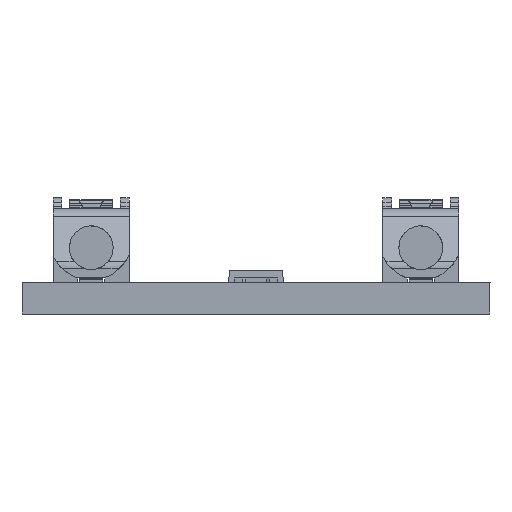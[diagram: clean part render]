
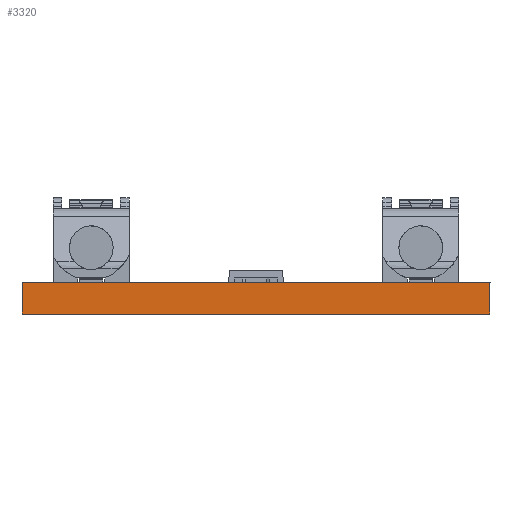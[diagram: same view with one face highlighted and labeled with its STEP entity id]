
A CAD part, left-side view. The second image highlights one B-rep face of the part: STEP entity #3320.
In plain terms, the highlighted planar face has unit normal (-1, 0, 0).
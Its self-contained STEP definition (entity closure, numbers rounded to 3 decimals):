
#10 = VERTEX_POINT ( 'NONE', #4194 ) ;
#26 = VERTEX_POINT ( 'NONE', #1637 ) ;
#445 = CARTESIAN_POINT ( 'NONE',  ( 0., 0., 1.6 ) ) ;
#523 = DIRECTION ( 'NONE',  ( 0., 0., -1. ) ) ;
#585 = VERTEX_POINT ( 'NONE', #2545 ) ;
#867 = VECTOR ( 'NONE', #1009, 1000. ) ;
#1009 = DIRECTION ( 'NONE',  ( 0., -1., 0. ) ) ;
#1097 = DIRECTION ( 'NONE',  ( 0., 0., -1. ) ) ;
#1125 = AXIS2_PLACEMENT_3D ( 'NONE', #8180, #4336, #523 ) ;
#1294 = ORIENTED_EDGE ( 'NONE', *, *, #6421, .F. ) ;
#1637 = CARTESIAN_POINT ( 'NONE',  ( 0., 24., 1.6 ) ) ;
#1734 = VECTOR ( 'NONE', #1097, 1000. ) ;
#1847 = DIRECTION ( 'NONE',  ( 0., 0., -1. ) ) ;
#1944 = ORIENTED_EDGE ( 'NONE', *, *, #7558, .T. ) ;
#2435 = EDGE_LOOP ( 'NONE', ( #1944, #4137, #1294, #3819 ) ) ;
#2545 = CARTESIAN_POINT ( 'NONE',  ( 0., 0., 1.6 ) ) ;
#2665 = EDGE_CURVE ( 'NONE', #26, #10, #3376, .T. ) ;
#2758 = CARTESIAN_POINT ( 'NONE',  ( 0., 0., 1.6 ) ) ;
#3320 = ADVANCED_FACE ( 'NONE', ( #8242 ), #3688, .F. ) ;
#3376 = LINE ( 'NONE', #6950, #4881 ) ;
#3389 = DIRECTION ( 'NONE',  ( 0., -1., 0. ) ) ;
#3505 = VECTOR ( 'NONE', #3389, 1000. ) ;
#3688 = PLANE ( 'NONE',  #1125 ) ;
#3819 = ORIENTED_EDGE ( 'NONE', *, *, #2665, .T. ) ;
#4137 = ORIENTED_EDGE ( 'NONE', *, *, #4216, .F. ) ;
#4194 = CARTESIAN_POINT ( 'NONE',  ( 0., 24., 0. ) ) ;
#4216 = EDGE_CURVE ( 'NONE', #585, #7544, #6641, .T. ) ;
#4336 = DIRECTION ( 'NONE',  ( 1., 0., 0. ) ) ;
#4791 = CARTESIAN_POINT ( 'NONE',  ( 0., 0., 0. ) ) ;
#4824 = CARTESIAN_POINT ( 'NONE',  ( 0., 0., 0. ) ) ;
#4881 = VECTOR ( 'NONE', #1847, 1000. ) ;
#5620 = LINE ( 'NONE', #2758, #3505 ) ;
#5752 = LINE ( 'NONE', #4824, #867 ) ;
#6421 = EDGE_CURVE ( 'NONE', #26, #585, #5620, .T. ) ;
#6641 = LINE ( 'NONE', #445, #1734 ) ;
#6950 = CARTESIAN_POINT ( 'NONE',  ( 0., 24., 1.6 ) ) ;
#7544 = VERTEX_POINT ( 'NONE', #4791 ) ;
#7558 = EDGE_CURVE ( 'NONE', #10, #7544, #5752, .T. ) ;
#8180 = CARTESIAN_POINT ( 'NONE',  ( 0., 0., 1.6 ) ) ;
#8242 = FACE_OUTER_BOUND ( 'NONE', #2435, .T. ) ;
